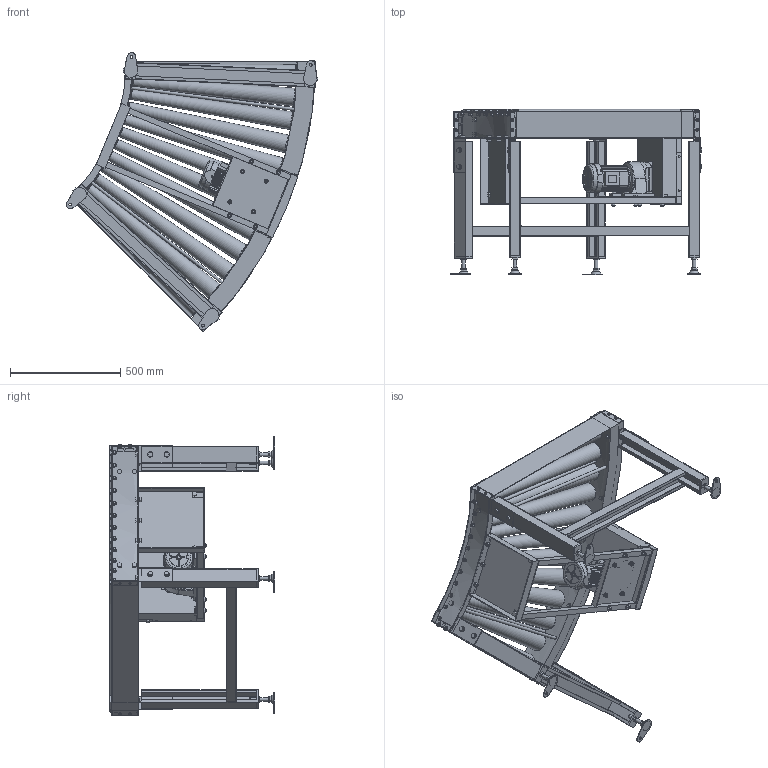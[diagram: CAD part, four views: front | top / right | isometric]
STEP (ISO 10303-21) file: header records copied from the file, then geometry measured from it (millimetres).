
FILE_DESCRIPTION( (''), '2;1');
FILE_NAME ('WEB-MCC3-45-800-75-45°-L.stp','2025-07-18T08:07:39',(''),(''),'spGate 20.6.2 (****-****-****-****)','','');
FILE_SCHEMA (('AUTOMOTIVE_DESIGN'));
Length unit declared in the file: millimetre
Products named in the file (22): WEB-MCC3-45-800-75-45_-L; TEMP_X_T-prt0; TEMP_X_T-prt1; TEMP_X_T-prt2; TEMP_X_T-prt3; TEMP_X_T-prt4; TEMP_X_T-prt5; TEMP_X_T-prt6; TEMP_X_T-prt7; TEMP_X_T-prt8; TEMP_X_T-prt9; TEMP_X_T-prt10; TEMP_X_T-prt11; TEMP_X_T-prt12; TEMP_X_T-prt13; TEMP_X_T-prt14; TEMP_X_T-prt15; TEMP_X_T-prt16; TEMP_X_T-prt17; TEMP_X_T-prt18; TEMP_X_T-prt19; TEMP_X_T-prt20
Assembly tree (21 placements, depth 2):
  WEB-MCC3-45-800-75-45_-L
    TEMP_X_T-prt0
    TEMP_X_T-prt1
    TEMP_X_T-prt2
    TEMP_X_T-prt3
    TEMP_X_T-prt4
    TEMP_X_T-prt5
    TEMP_X_T-prt6
    TEMP_X_T-prt7
    TEMP_X_T-prt8
    TEMP_X_T-prt9
    TEMP_X_T-prt10
    TEMP_X_T-prt11
    TEMP_X_T-prt12
    TEMP_X_T-prt13
    TEMP_X_T-prt14
    TEMP_X_T-prt15
    TEMP_X_T-prt16
    TEMP_X_T-prt17
    TEMP_X_T-prt18
    TEMP_X_T-prt19
    TEMP_X_T-prt20
Bounding box: 1143.32 x 751 x 1266.01 mm (x, y, z)
Volume: 53528437.5 mm3; surface area: 6160411.8 mm2
Topology: 21 solids, 22 shells, 2664 faces, 6837 edges, 4533 vertices
Faces by surface type: plane 2048, cylinder 529, bspline 87
Full cylindrical faces by diameter (mm): 5 x4, 6 x20, 7 x8, 8 x5, 9.2 x4, 10 x46, 10.5 x4, 12 x14, 12.2 x12, 13 x12, 13.8 x12, 15 x1, 15.4 x20, 16 x16, 17.3 x12, 18 x16, 18.4 x24, 21 x4, 21.5 x1, 24 x8, 28 x13, 31 x1, 63 x1, 113.2 x1, 153 x1
Entity records: 143832 total; most frequent: CARTESIAN_POINT 22849, ORIENTED_EDGE 13672, DIRECTION 13342, COLOUR_RGB 9521, PRESENTATION_STYLE_ASSIGNMENT 9521, STYLED_ITEM 9521, EDGE_CURVE 6836, DRAUGHTING_PRE_DEFINED_CURVE_FONT 6836
